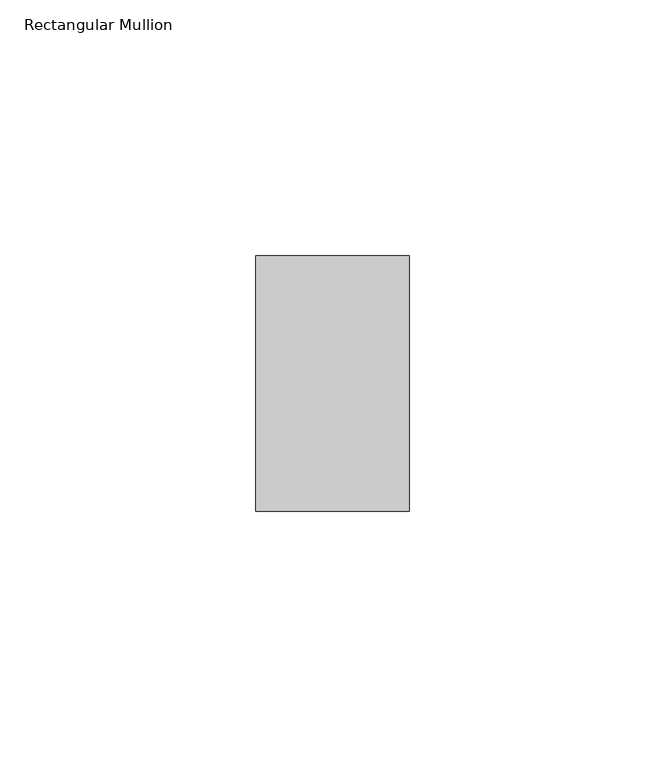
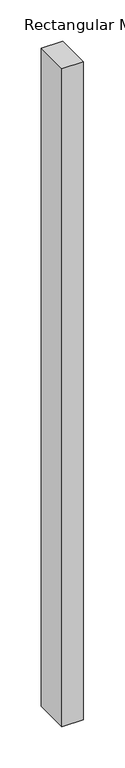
"""IFC4 building model written with IfcOpenShell, lengths in millimetres: member geometry, Rectangular Mullion : ARQ_TV_MULL_50x30mm."""

from ifc_helpers import new_model, si_unit, frame, origin, place, context, project, spatial, polyline, outline, extrude, source, transform, mapped, element, save


def rectangular_mullion_c2084202(model_context):
    return source(origin(), model_context, "Body", "SweptSolid", [
        extrude(outline(polyline([(15.0, 25.0), (15.0, -25.0), (-15.0, -25.0), (-15.0, 25.0), (15.0, 25.0)])), frame((0.0, 0.0, -972.6074646), z_axis=(0.0, 0.0, 1.0), x_axis=(1.0, 0.0, 0.0)), (0.0, 0.0, 1.0), 972.6074646),
    ])


if __name__ == "__main__":
    model = new_model("IFC4")
    model_context = context("Model", 3, world=origin())
    ifc_project = project(units=[si_unit("LENGTHUNIT", "METRE", prefix="MILLI")], contexts=[model_context])
    site = spatial("IfcSite", under=ifc_project)
    building = spatial("IfcBuilding", under=site)
    placement = place(None, origin())
    rectangular_mullion_shape = rectangular_mullion_c2084202(model_context)
    element("IfcMember", 1, ObjectType="Rectangular Mullion : ARQ_TV_MULL_50x30mm", at=placement, inside=building, context=model_context, shape_type="MappedRepresentation", body=[
        mapped(rectangular_mullion_shape, transform((0.0, 0.0, 0.0), x_axis=(1.0, 0.0, 0.0), y_axis=(0.0, 1.0, 0.0), z_axis=(0.0, 0.0, 1.0))),
    ])
    save(model, "model.ifc")
